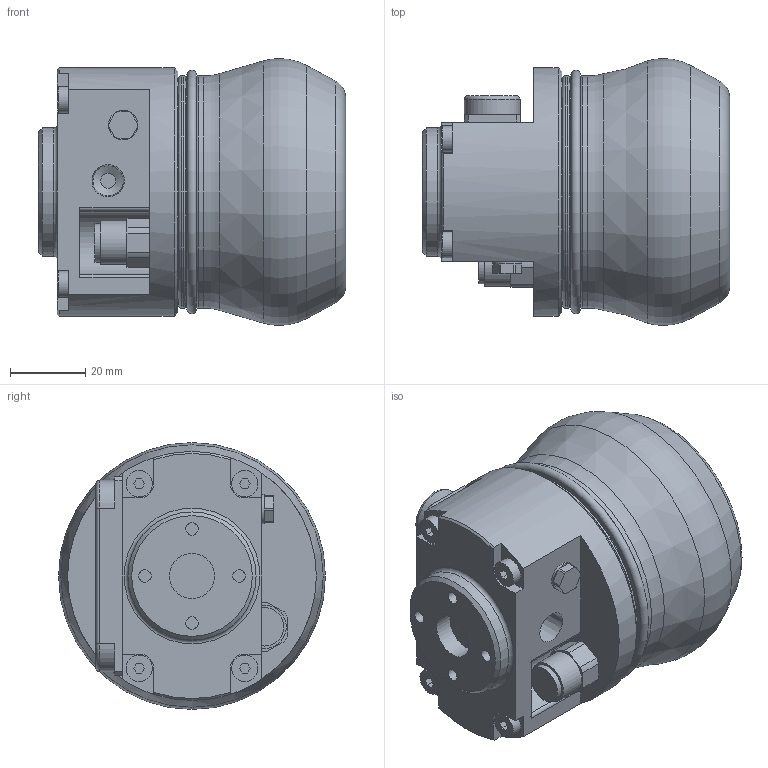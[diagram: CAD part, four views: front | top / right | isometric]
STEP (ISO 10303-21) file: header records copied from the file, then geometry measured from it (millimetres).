
FILE_DESCRIPTION(('STEP AP203'),'1');
FILE_NAME('SGB-002-0001(SGB-30).stp','2019-07-31T05:32:35',(' '),(' '),'Spatial InterOp 3D',' ',' ');
FILE_SCHEMA(('CONFIG_CONTROL_DESIGN'));
Length unit declared in the file: millimetre
Products named in the file (1): 1
Bounding box: 81.5 x 70.8 x 70.8 mm (x, y, z)
Volume: 209217.8 mm3; surface area: 30924.1 mm2
Topology: 1 solids, 1 shells, 217 faces, 522 edges, 336 vertices
Faces by surface type: plane 132, cylinder 49, torus 20, cone 16
Full cylindrical faces by diameter (mm): 3.3 x4, 4 x1, 4.5 x2, 5.5 x2, 7 x4, 7.8 x1, 8 x1, 10.2 x1, 11.5 x1, 12 x1, 29.979 x1, 30 x1, 34 x1, 61.6 x2, 66 x1
Entity records: 6106 total; most frequent: CARTESIAN_POINT 1164, DIRECTION 1026, ORIENTED_EDGE 924, EDGE_CURVE 462, AXIS2_PLACEMENT_3D 376, VERTEX_POINT 332, EDGE_LOOP 302, LINE 274
